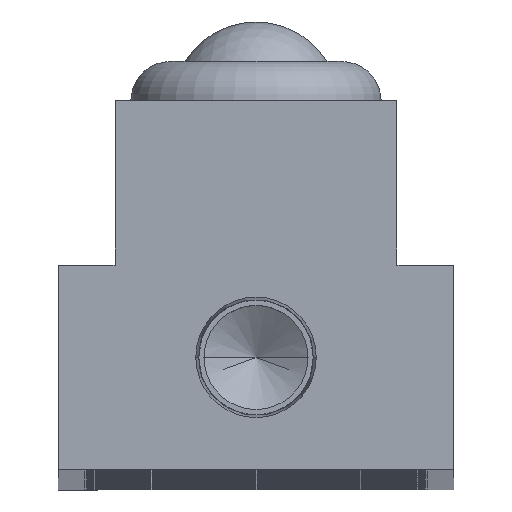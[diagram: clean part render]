
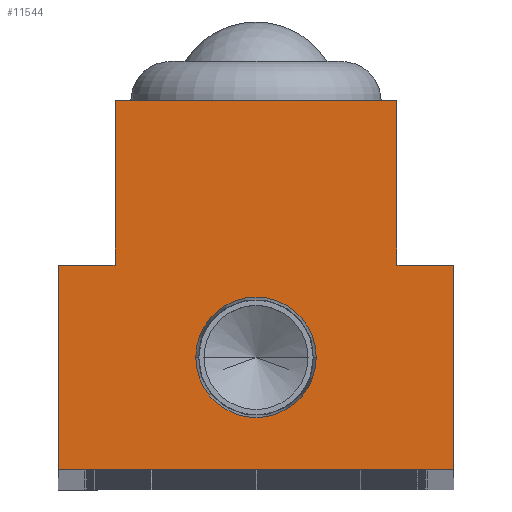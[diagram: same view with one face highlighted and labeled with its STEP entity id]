
A CAD part, top view. The second image highlights one B-rep face of the part: STEP entity #11544.
In plain terms, the highlighted planar face has unit normal (0, 0, 1).
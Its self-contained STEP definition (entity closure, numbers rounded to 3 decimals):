
#239 = VECTOR ( 'NONE', #14585, 1000. ) ;
#267 = DIRECTION ( 'NONE',  ( 0., -1., 0. ) ) ;
#1006 = VERTEX_POINT ( 'NONE', #2651 ) ;
#1054 = VERTEX_POINT ( 'NONE', #10546 ) ;
#1754 = EDGE_CURVE ( 'NONE', #1054, #4668, #15784, .T. ) ;
#1967 = CARTESIAN_POINT ( 'NONE',  ( 10.7, 28., 0. ) ) ;
#2236 = CARTESIAN_POINT ( 'NONE',  ( 15., 15.5, 0. ) ) ;
#2486 = PLANE ( 'NONE',  #5698 ) ;
#2651 = CARTESIAN_POINT ( 'NONE',  ( 4.574, 8.5, 0. ) ) ;
#2880 = LINE ( 'NONE', #21410, #13119 ) ;
#3251 = CARTESIAN_POINT ( 'NONE',  ( 0., 8.5, 0. ) ) ;
#3264 = FACE_BOUND ( 'NONE', #6806, .T. ) ;
#3394 = DIRECTION ( 'NONE',  ( -1., 0., 0. ) ) ;
#3696 = DIRECTION ( 'NONE',  ( 1., 0., 0. ) ) ;
#3876 = FACE_OUTER_BOUND ( 'NONE', #12189, .T. ) ;
#3952 = CARTESIAN_POINT ( 'NONE',  ( -15., 0., 0. ) ) ;
#4558 = ORIENTED_EDGE ( 'NONE', *, *, #9920, .T. ) ;
#4668 = VERTEX_POINT ( 'NONE', #24353 ) ;
#4780 = VERTEX_POINT ( 'NONE', #3952 ) ;
#4806 = ORIENTED_EDGE ( 'NONE', *, *, #19374, .F. ) ;
#5028 = VERTEX_POINT ( 'NONE', #2236 ) ;
#5175 = ORIENTED_EDGE ( 'NONE', *, *, #19253, .F. ) ;
#5200 = DIRECTION ( 'NONE',  ( 1., 0., 0. ) ) ;
#5698 = AXIS2_PLACEMENT_3D ( 'NONE', #17923, #21772, #10221 ) ;
#5835 = DIRECTION ( 'NONE',  ( 0., 1., 0. ) ) ;
#6287 = LINE ( 'NONE', #17189, #11984 ) ;
#6771 = VECTOR ( 'NONE', #10494, 1000. ) ;
#6806 = EDGE_LOOP ( 'NONE', ( #5175, #4806 ) ) ;
#6917 = VERTEX_POINT ( 'NONE', #17283 ) ;
#7549 = CARTESIAN_POINT ( 'NONE',  ( 0., 8.5, 0. ) ) ;
#7742 = EDGE_CURVE ( 'NONE', #4780, #6917, #6287, .T. ) ;
#7756 = ORIENTED_EDGE ( 'NONE', *, *, #17922, .T. ) ;
#7931 = VERTEX_POINT ( 'NONE', #11948 ) ;
#8490 = CARTESIAN_POINT ( 'NONE',  ( 15., 0., 0. ) ) ;
#8948 = AXIS2_PLACEMENT_3D ( 'NONE', #7549, #21012, #9476 ) ;
#9184 = VECTOR ( 'NONE', #5835, 1000. ) ;
#9476 = DIRECTION ( 'NONE',  ( 1., 0., 0. ) ) ;
#9920 = EDGE_CURVE ( 'NONE', #11249, #4780, #2880, .T. ) ;
#10221 = DIRECTION ( 'NONE',  ( 1., 0., 0. ) ) ;
#10494 = DIRECTION ( 'NONE',  ( -1., 0., 0. ) ) ;
#10546 = CARTESIAN_POINT ( 'NONE',  ( -10.7, 28., 0. ) ) ;
#10696 = CARTESIAN_POINT ( 'NONE',  ( 10.7, 15.5, 0. ) ) ;
#10832 = LINE ( 'NONE', #8490, #20483 ) ;
#11249 = VERTEX_POINT ( 'NONE', #24485 ) ;
#11397 = VERTEX_POINT ( 'NONE', #1967 ) ;
#11544 = ADVANCED_FACE ( 'NONE', ( #3264, #3876 ), #2486, .T. ) ;
#11702 = EDGE_CURVE ( 'NONE', #5028, #7931, #20724, .T. ) ;
#11948 = CARTESIAN_POINT ( 'NONE',  ( 10.7, 15.5, 0. ) ) ;
#11984 = VECTOR ( 'NONE', #3696, 1000. ) ;
#12189 = EDGE_LOOP ( 'NONE', ( #7756, #17682, #15275, #21654, #4558, #18456, #13859, #23452 ) ) ;
#13119 = VECTOR ( 'NONE', #267, 1000. ) ;
#13859 = ORIENTED_EDGE ( 'NONE', *, *, #24724, .T. ) ;
#14313 = LINE ( 'NONE', #15416, #9184 ) ;
#14585 = DIRECTION ( 'NONE',  ( -1., 0., 0. ) ) ;
#14923 = CARTESIAN_POINT ( 'NONE',  ( -10.7, 28., 0. ) ) ;
#15275 = ORIENTED_EDGE ( 'NONE', *, *, #1754, .T. ) ;
#15416 = CARTESIAN_POINT ( 'NONE',  ( 10.7, 28., 0. ) ) ;
#15784 = LINE ( 'NONE', #18972, #20889 ) ;
#16317 = CARTESIAN_POINT ( 'NONE',  ( -10.7, 15.5, 0. ) ) ;
#16728 = DIRECTION ( 'NONE',  ( 0., 0., 1. ) ) ;
#17019 = LINE ( 'NONE', #16317, #6771 ) ;
#17189 = CARTESIAN_POINT ( 'NONE',  ( 15., 0., 0. ) ) ;
#17283 = CARTESIAN_POINT ( 'NONE',  ( 15., 0., 0. ) ) ;
#17293 = VECTOR ( 'NONE', #3394, 1000. ) ;
#17583 = VERTEX_POINT ( 'NONE', #24039 ) ;
#17682 = ORIENTED_EDGE ( 'NONE', *, *, #19791, .T. ) ;
#17920 = LINE ( 'NONE', #14923, #17293 ) ;
#17922 = EDGE_CURVE ( 'NONE', #7931, #11397, #14313, .T. ) ;
#17923 = CARTESIAN_POINT ( 'NONE',  ( 0., 0., 0. ) ) ;
#18202 = CIRCLE ( 'NONE', #22337, 4.574 ) ;
#18456 = ORIENTED_EDGE ( 'NONE', *, *, #7742, .T. ) ;
#18633 = EDGE_CURVE ( 'NONE', #4668, #11249, #17019, .T. ) ;
#18972 = CARTESIAN_POINT ( 'NONE',  ( -10.7, 28., 0. ) ) ;
#19253 = EDGE_CURVE ( 'NONE', #1006, #17583, #18202, .T. ) ;
#19374 = EDGE_CURVE ( 'NONE', #17583, #1006, #20592, .T. ) ;
#19791 = EDGE_CURVE ( 'NONE', #11397, #1054, #17920, .T. ) ;
#20483 = VECTOR ( 'NONE', #21967, 1000. ) ;
#20592 = CIRCLE ( 'NONE', #8948, 4.574 ) ;
#20724 = LINE ( 'NONE', #10696, #239 ) ;
#20889 = VECTOR ( 'NONE', #24692, 1000. ) ;
#21012 = DIRECTION ( 'NONE',  ( 0., 0., 1. ) ) ;
#21410 = CARTESIAN_POINT ( 'NONE',  ( -15., 0., 0. ) ) ;
#21654 = ORIENTED_EDGE ( 'NONE', *, *, #18633, .T. ) ;
#21772 = DIRECTION ( 'NONE',  ( 0., 0., 1. ) ) ;
#21967 = DIRECTION ( 'NONE',  ( 0., 1., 0. ) ) ;
#22337 = AXIS2_PLACEMENT_3D ( 'NONE', #3251, #16728, #5200 ) ;
#23452 = ORIENTED_EDGE ( 'NONE', *, *, #11702, .T. ) ;
#24039 = CARTESIAN_POINT ( 'NONE',  ( -4.574, 8.5, 0. ) ) ;
#24353 = CARTESIAN_POINT ( 'NONE',  ( -10.7, 15.5, 0. ) ) ;
#24485 = CARTESIAN_POINT ( 'NONE',  ( -15., 15.5, 0. ) ) ;
#24692 = DIRECTION ( 'NONE',  ( 0., -1., 0. ) ) ;
#24724 = EDGE_CURVE ( 'NONE', #6917, #5028, #10832, .T. ) ;
